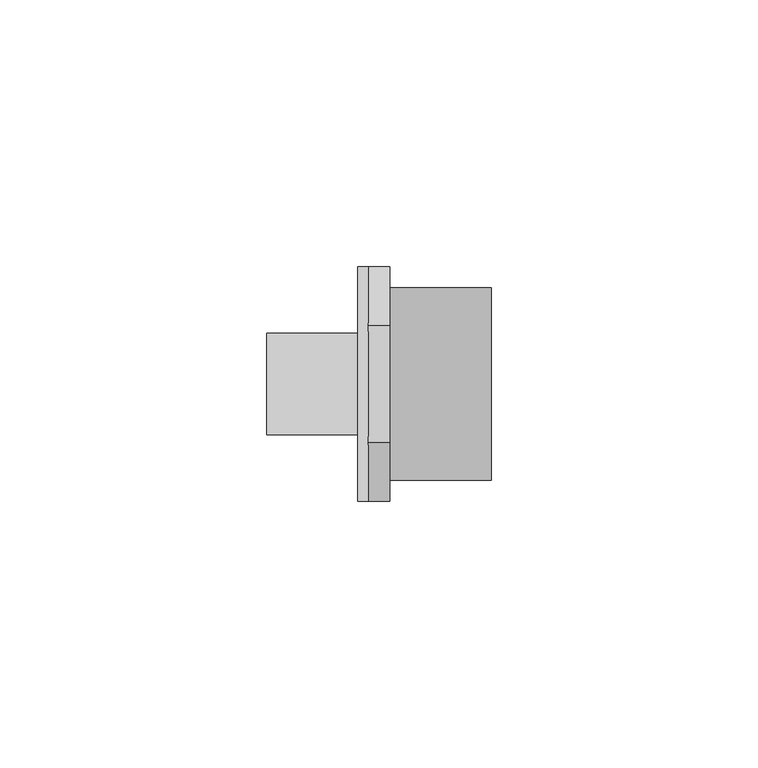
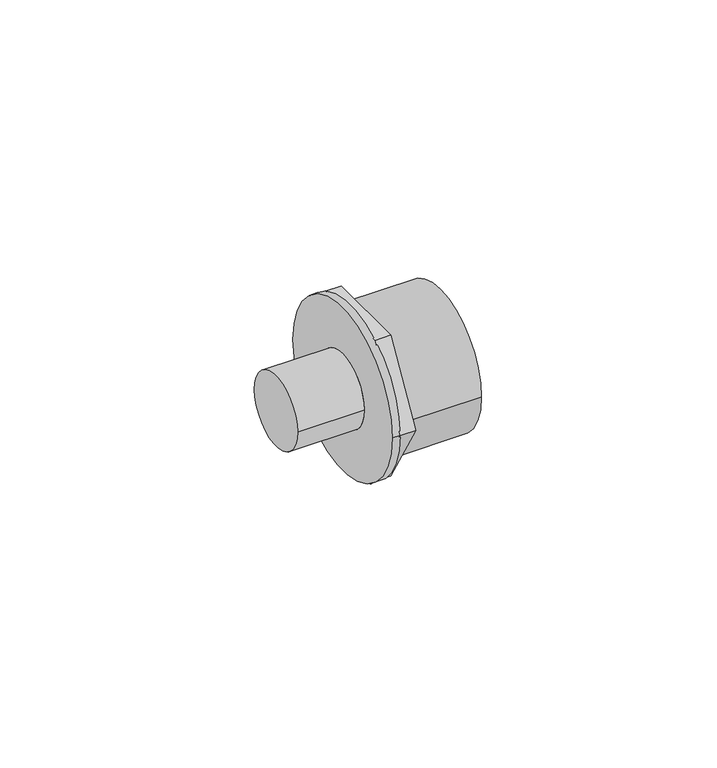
"""IFC4 building model written with IfcOpenShell, lengths in millimetres: pipe fitting geometry, 01011169 : Uniao M/F."""

import ifcopenshell
import ifcopenshell.guid

model = None  # the IFC model being written
_history = None  # IfcOwnerHistory: only IFC2X3 demands one
_inside = {}  # id of a spatial element -> (the spatial element, [elements in it])
_under = {}  # id of a project, library or spatial element -> (it, [spatial elements below it])
_declared = {}  # id of a project -> (the project, [libraries it declares])
_typed = {}  # id of a type object -> (the type object, [elements of that type])
_made_of = {}  # id of a material, layer set ... -> (it, [elements and type objects made of it])


def new_model(schema):
    """Start an empty IFC model of exactly this schema.

    Asked for "IFC4X3", IfcOpenShell would pick the latest addendum, in which some entities
    have other attributes; the version numbers below select the first issue.
    IFC2X3 requires an IfcOwnerHistory on every rooted entity: one is made here for all.
    """
    global model, _history
    if schema == "IFC4X3":
        model = ifcopenshell.file(schema_version=(4, 3, 0, 0))
    else:
        model = ifcopenshell.file(schema=schema)
    _inside.clear()
    _under.clear()
    _declared.clear()
    _typed.clear()
    _made_of.clear()
    _history = None
    if model.schema == "IFC2X3":
        org = make("IfcOrganization", Name="unknown")
        user = make(
            "IfcPersonAndOrganization",
            ThePerson=make("IfcPerson", FamilyName="unknown"),
            TheOrganization=org,
        )
        app = make(
            "IfcApplication",
            ApplicationDeveloper=org,
            Version="unknown",
            ApplicationFullName="unknown",
            ApplicationIdentifier="unknown",
        )
        _history = make(
            "IfcOwnerHistory",
            OwningUser=user,
            OwningApplication=app,
            ChangeAction="ADDED",
            CreationDate=0,
        )
    return model


def make(cls, **values):
    """One entity of the class cls with the attributes given. An attribute that is None is left unset."""
    return model.create_entity(
        cls, **{name: value for name, value in values.items() if value is not None}
    )


def rooted(cls, **values):
    """An entity with a GlobalId (a new one), such as an element, a storey or a relation."""
    return make(cls, GlobalId=ifcopenshell.guid.new(), OwnerHistory=_history, **values)


def si_unit(unit_type, name, prefix=None):
    """IfcSIUnit, for example si_unit("LENGTHUNIT", "METRE", prefix="MILLI")."""
    return make("IfcSIUnit", UnitType=unit_type, Prefix=prefix, Name=name)


def assignment(units):
    """IfcUnitAssignment: the units of a project."""
    return None if units is None else make("IfcUnitAssignment", Units=units)


def point(xyz):
    """IfcCartesianPoint."""
    return None if xyz is None else make("IfcCartesianPoint", Coordinates=xyz)


def direction(xyz):
    """IfcDirection."""
    return None if xyz is None else make("IfcDirection", DirectionRatios=xyz)


def frame(location, z_axis=None, x_axis=None):
    """IfcAxis2Placement3D, a coordinate frame: its origin and axes. An axis left out is left unset."""
    return make(
        "IfcAxis2Placement3D",
        Location=point(location),
        Axis=direction(z_axis),
        RefDirection=direction(x_axis),
    )


def origin():
    """The frame at (0, 0, 0) with its axes left unset."""
    return frame((0.0, 0.0, 0.0))


def place(relative_to, where):
    """IfcLocalPlacement: puts the frame where relative to a parent placement (None: the world)."""
    return make(
        "IfcLocalPlacement", PlacementRelTo=relative_to, RelativePlacement=where
    )


def context(
    kind, dimensions, precision=None, world=None, true_north=None, identifier=None
):
    """IfcGeometricRepresentationContext, for example the 3D "Model" context."""
    return make(
        "IfcGeometricRepresentationContext",
        ContextIdentifier=identifier,
        ContextType=kind,
        CoordinateSpaceDimension=dimensions,
        Precision=precision,
        WorldCoordinateSystem=world,
        TrueNorth=true_north,
    )


def project(units=None, contexts=None):
    """IfcProject with its units and contexts."""
    return rooted(
        "IfcProject",
        Name="project",
        RepresentationContexts=contexts,
        UnitsInContext=assignment(units),
    )


def spatial(cls, under=None, at=None, **own):
    """A site, building, storey or space (cls), placed at a placement, below another one or the project."""
    s = rooted(cls, ObjectPlacement=at, **own)
    if under is not None:
        _under.setdefault(under.id(), (under, []))[1].append(s)
    return s


def circle_curve(where, radius):
    """IfcCircle in the frame where."""
    return make("IfcCircle", Position=where, Radius=radius)


def shape(context_of_items, identifier, shape_type, items):
    """IfcShapeRepresentation: the items that make up one representation, for example the "Body"."""
    return make(
        "IfcShapeRepresentation",
        ContextOfItems=context_of_items,
        RepresentationIdentifier=identifier,
        RepresentationType=shape_type,
        Items=items,
    )


def source(mapping_origin, context_of_items, identifier, shape_type, items):
    """IfcRepresentationMap: a shape defined once, which mapped items show again and again."""
    return make(
        "IfcRepresentationMap",
        MappingOrigin=mapping_origin,
        MappedRepresentation=shape(context_of_items, identifier, shape_type, items),
    )


def transform(
    local_origin,
    x_axis=None,
    y_axis=None,
    z_axis=None,
    scale=None,
    scale2=None,
    scale3=None,
    uniform=True,
):
    """IfcCartesianTransformationOperator3D, or its non-uniform kind. x_axis, y_axis, z_axis: its Axis1, 2, 3."""
    if uniform:
        return make(
            "IfcCartesianTransformationOperator3D",
            Axis1=direction(x_axis),
            Axis2=direction(y_axis),
            LocalOrigin=point(local_origin),
            Scale=scale,
            Axis3=direction(z_axis),
        )
    return make(
        "IfcCartesianTransformationOperator3DnonUniform",
        Axis1=direction(x_axis),
        Axis2=direction(y_axis),
        LocalOrigin=point(local_origin),
        Scale=scale,
        Axis3=direction(z_axis),
        Scale2=scale2,
        Scale3=scale3,
    )


def mapped(mapping_source, mapping_target):
    """IfcMappedItem: shows the shape of a source again, moved by a transform."""
    return make(
        "IfcMappedItem", MappingSource=mapping_source, MappingTarget=mapping_target
    )


def made_of(thing, what):
    """Note that an element or type object is made of a material, layer set ...; save() writes the relation."""
    if what is not None:
        _made_of.setdefault(what.id(), (what, []))[1].append(thing)
    return thing


def element(
    cls,
    number,
    at=None,
    inside=None,
    cuts=None,
    type_object=None,
    material=None,
    context=None,
    identifier="Body",
    shape_type=None,
    held_by="IfcProductDefinitionShape",
    body=None,
    shapes=None,
    **own,
):
    """One element of the class cls, such as IfcWall. Its Tag is "e" and its number.

    at: its placement. inside: the storey or other place that contains it. cuts: it is an
    opening in that element (IfcRelVoidsElement). A single representation is given by context,
    identifier, shape_type and body (its items); several are given by shapes. held_by: the class
    of the entity that holds the representations. save() writes the other relations.
    """
    e = rooted(cls, Tag="e%d" % number, ObjectPlacement=at, **own)
    if body is not None:
        shapes = [shape(context, identifier, shape_type, body)]
    if shapes is not None:
        e.Representation = make(held_by, Representations=shapes)
    if inside is not None:
        _inside.setdefault(inside.id(), (inside, []))[1].append(e)
    if cuts is not None:
        rooted(
            "IfcRelVoidsElement", RelatingBuildingElement=cuts, RelatedOpeningElement=e
        )
    if type_object is not None:
        _typed.setdefault(type_object.id(), (type_object, []))[1].append(e)
    return made_of(e, material)


def aggregate(whole, parts):
    """IfcRelAggregates: a whole, such as a stair, and the parts it consists of."""
    return rooted("IfcRelAggregates", RelatingObject=whole, RelatedObjects=parts)


def save(model, path):
    """Write the relations noted so far, then the file.

    IfcRelAggregates (storeys below a building ...), IfcRelContainedInSpatialStructure (elements
    in a storey), IfcRelDefinesByType, IfcRelAssociatesMaterial and IfcRelDeclares: one each for
    every whole, place, type object, material and project.
    """
    for whole, parts in _under.values():
        aggregate(whole, parts)
    for where, things in _inside.values():
        rooted(
            "IfcRelContainedInSpatialStructure",
            RelatedElements=things,
            RelatingStructure=where,
        )
    for kind, things in _typed.values():
        rooted("IfcRelDefinesByType", RelatedObjects=things, RelatingType=kind)
    for what, things in _made_of.values():
        rooted("IfcRelAssociatesMaterial", RelatedObjects=things, RelatingMaterial=what)
    for by, libraries in _declared.values():
        rooted("IfcRelDeclares", RelatingContext=by, RelatedDefinitions=libraries)
    model.write(path)


def plane_surface(at):
    """IfcPlane: the flat surface through the origin of the frame at, square to its z axis."""
    return make("IfcPlane", Position=at)


def cylinder_surface(at, radius):
    """IfcCylindricalSurface: all points at the distance radius from the z axis of the frame at."""
    return make("IfcCylindricalSurface", Position=at, Radius=radius)


def advanced_brep(points, edges, surfaces, faces):
    """IfcAdvancedBrep: a solid bounded by faces that lie on surfaces and meet in shared edges.

    An edge is (start, end): straight between two places in points (the first is 0);
    or (start, end, curve); or (start, end, curve, False) where it runs against its curve.
    A face is (place in surfaces, loops), or (place, loops, False) where it looks against
    its surface's normal. A loop lists edges by number (the first is 1), with a minus sign
    where the edge is run from its end to its start. The first loop is the outer one.
    """
    corners = [point(p) for p in points]
    vertices = [make("IfcVertexPoint", VertexGeometry=c) for c in corners]
    made = []
    for start, end, *more in edges:
        made.append(
            make(
                "IfcEdgeCurve",
                EdgeStart=vertices[start],
                EdgeEnd=vertices[end],
                EdgeGeometry=more[0] if more else make("IfcPolyline", Points=[corners[start], corners[end]]),
                SameSense=more[1] if len(more) > 1 else True,
            )
        )
    hull = []
    for where, loops, *sense in faces:
        bounds = []
        for j, loop in enumerate(loops):
            ring = [make("IfcOrientedEdge", EdgeElement=made[abs(k) - 1], Orientation=k > 0) for k in loop]
            bounds.append(
                make(
                    "IfcFaceOuterBound" if j == 0 else "IfcFaceBound",
                    Bound=make("IfcEdgeLoop", EdgeList=ring),
                    Orientation=True,
                )
            )
        hull.append(make("IfcAdvancedFace", Bounds=bounds, FaceSurface=surfaces[where], SameSense=sense[0] if sense else True))
    return make("IfcAdvancedBrep", Outer=make("IfcClosedShell", CfsFaces=hull))


def pipe_fitting_543c1699(model_context):
    return source(origin(), model_context, "Body", "AdvancedBrep", [
        advanced_brep(
        [(2.0, -10.9696551, 19.0), (2.0, -21.9393102, 0.0), (2.0, -10.9696551, -19.0), (2.0, 10.9696551, -19.0), (2.0, 21.9393102, 0.0), (2.0, 10.9696551, 19.0), (2.0, -18.05, 0.0), (2.0, 18.05, 0.0), (-2.0, -10.9696551, 19.0), (-2.0, -21.9393102, 0.0), (-2.0, -10.9696551, -19.0), (-2.0, 10.9696551, -19.0), (-2.0, 21.9393102, 0.0), (-2.0, 10.9696551, 19.0), (21.0, -18.05, 0.0), (21.0, 18.05, 0.0), (-21.0, 9.525, 0.0), (-21.0, -9.525, 0.0), (-4.0, -9.525, 0.0), (-4.0, 9.525, 0.0), (-4.0, -21.9393102, 0.0), (-4.0, 21.9393102, 0.0)],
        [
            (0, 1),
            (1, 2),
            (2, 3),
            (3, 4),
            (4, 5),
            (5, 0),
            (6, 7, circle_curve(frame((2.0, 0.0, 0.0), z_axis=(-1.0, 0.0, 0.0), x_axis=(0.0, 1.0, 0.0)), 18.05)),
            (7, 6, circle_curve(frame((2.0, 0.0, 0.0), z_axis=(-1.0, 0.0, 0.0), x_axis=(0.0, 1.0, 0.0)), 18.05)),
            (0, 8),
            (8, 9),
            (9, 1),
            (9, 10),
            (10, 2),
            (10, 11),
            (11, 3),
            (11, 12),
            (12, 4),
            (12, 13),
            (13, 5),
            (13, 8),
            (14, 15, circle_curve(frame((21.0, 0.0, 0.0), z_axis=(1.0, 0.0, 0.0), x_axis=(0.0, 1.0, 0.0)), 18.05)),
            (15, 14, circle_curve(frame((21.0, 0.0, 0.0), z_axis=(1.0, 0.0, 0.0), x_axis=(0.0, 1.0, 0.0)), 18.05)),
            (15, 7),
            (6, 14),
            (16, 17, circle_curve(frame((-21.0, 0.0, 0.0), z_axis=(-1.0, 0.0, 0.0), x_axis=(0.0, -1.0, 0.0)), 9.525)),
            (17, 16, circle_curve(frame((-21.0, 0.0, 0.0), z_axis=(-1.0, 0.0, 0.0), x_axis=(0.0, -1.0, 0.0)), 9.525)),
            (17, 18),
            (18, 19, circle_curve(frame((-4.0, 0.0, 0.0), z_axis=(-1.0, 0.0, 0.0), x_axis=(0.0, -1.0, 0.0)), 9.525)),
            (19, 16),
            (19, 18, circle_curve(frame((-4.0, 0.0, 0.0), z_axis=(-1.0, 0.0, 0.0), x_axis=(0.0, -1.0, 0.0)), 9.525)),
            (8, 9, circle_curve(frame((-2.0, 0.0, 0.0), z_axis=(1.0, 0.0, 0.0), x_axis=(0.0, 1.0, 0.0)), 21.9393102)),
            (12, 13, circle_curve(frame((-2.0, 0.0, 0.0), z_axis=(1.0, 0.0, 0.0), x_axis=(0.0, 1.0, 0.0)), 21.9393102)),
            (13, 8, circle_curve(frame((-2.0, 0.0, 0.0), z_axis=(1.0, 0.0, 0.0), x_axis=(0.0, 1.0, 0.0)), 21.9393102)),
            (11, 12, circle_curve(frame((-2.0, 0.0, 0.0), z_axis=(1.0, 0.0, 0.0), x_axis=(0.0, 1.0, 0.0)), 21.9393102)),
            (9, 10, circle_curve(frame((-2.0, 0.0, 0.0), z_axis=(1.0, 0.0, 0.0), x_axis=(0.0, 1.0, 0.0)), 21.9393102)),
            (10, 11, circle_curve(frame((-2.0, 0.0, 0.0), z_axis=(1.0, 0.0, 0.0), x_axis=(0.0, 1.0, 0.0)), 21.9393102)),
            (20, 21, circle_curve(frame((-4.0, 0.0, 0.0), z_axis=(-1.0, 0.0, 0.0), x_axis=(0.0, 1.0, 0.0)), 21.9393102)),
            (21, 20, circle_curve(frame((-4.0, 0.0, 0.0), z_axis=(-1.0, 0.0, 0.0), x_axis=(0.0, 1.0, 0.0)), 21.9393102)),
            (21, 12),
            (9, 20),
        ],
        [
            plane_surface(frame((2.0, -10.9696551, 19.0), z_axis=(1.0, 0.0, 0.0), x_axis=(0.0, -0.5000000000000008, -0.8660254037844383))),
            plane_surface(frame((2.0, -10.9696551, 19.0), z_axis=(0.0, -0.8660254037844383, 0.5000000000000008), x_axis=(-1.0, 0.0, 0.0))),
            plane_surface(frame((2.0, -21.9393102, 0.0), z_axis=(0.0, -0.866025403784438, -0.500000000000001), x_axis=(-1.0, 0.0, 0.0))),
            plane_surface(frame((2.0, -10.9696551, -19.0), z_axis=(0.0, 0.0, -1.0), x_axis=(-1.0, 0.0, 0.0))),
            plane_surface(frame((2.0, 10.9696551, -19.0), z_axis=(0.0, 0.8660254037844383, -0.5000000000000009), x_axis=(-1.0, 0.0, 0.0))),
            plane_surface(frame((2.0, 21.9393102, 0.0), z_axis=(0.0, 0.8660254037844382, 0.5000000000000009), x_axis=(-1.0, 0.0, 0.0))),
            plane_surface(frame((2.0, 10.9696551, 19.0), z_axis=(0.0, 0.0, 1.0), x_axis=(-1.0, 0.0, 0.0))),
            plane_surface(frame((21.0, 0.0, 0.0), z_axis=(1.0, 0.0, 0.0), x_axis=(0.0, 0.0, 1.0))),
            cylinder_surface(frame((0.0, 0.0, 0.0), z_axis=(-1.0, 0.0, 0.0), x_axis=(0.0, 1.0, 0.0)), 18.05),
            plane_surface(frame((-21.0, 0.0, 0.0), z_axis=(-1.0, 0.0, 0.0), x_axis=(0.0, 0.0, 1.0))),
            cylinder_surface(frame((0.0, 0.0, 0.0), z_axis=(1.0, 0.0, 0.0), x_axis=(0.0, -1.0, 0.0)), 9.525),
            plane_surface(frame((-2.0, 21.9393102, 0.0), z_axis=(1.0, 0.0, 0.0), x_axis=(0.0, 0.0, 1.0))),
            plane_surface(frame((-4.0, 21.9393102, 0.0), z_axis=(-1.0, 0.0, 0.0), x_axis=(0.0, 0.0, -1.0))),
            cylinder_surface(frame((-4.0, 0.0, 0.0), z_axis=(1.0, 0.0, 0.0), x_axis=(0.0, 1.0, 0.0)), 21.9393102),
        ],
        [
            (0, [[1, 2, 3, 4, 5, 6], [7, 8]]),
            (1, [[-1, 9, 10, 11]]),
            (2, [[-2, -11, 12, 13]]),
            (3, [[-3, -13, 14, 15]]),
            (4, [[-4, -15, 16, 17]]),
            (5, [[-5, -17, 18, 19]]),
            (6, [[-6, -19, 20, -9]]),
            (7, [[21, 22]]),
            (8, [[-22, 23, -7, 24]]),
            (8, [[-21, -24, -8, -23]]),
            (9, [[25, 26]]),
            (10, [[-26, 27, 28, 29]]),
            (10, [[-25, -29, 30, -27]]),
            (11, [[31, -10]]),
            (11, [[32, -18]]),
            (11, [[33, -20]]),
            (11, [[34, -16]]),
            (11, [[35, -12]]),
            (11, [[36, -14]]),
            (12, [[37, 38], [-28, -30]]),
            (13, [[-38, 39, -34, -36, -35, 40]]),
            (13, [[-37, -40, -31, -33, -32, -39]]),
        ],
    ),
    ])


if __name__ == "__main__":
    model = new_model("IFC4")
    model_context = context("Model", 3, world=origin())
    ifc_project = project(units=[si_unit("LENGTHUNIT", "METRE", prefix="MILLI")], contexts=[model_context])
    site = spatial("IfcSite", under=ifc_project)
    building = spatial("IfcBuilding", under=site)
    placement = place(None, origin())
    pipe_fitting_shape = pipe_fitting_543c1699(model_context)
    element("IfcPipeFitting", 1, ObjectType="01011169 : Uniao M/F", at=placement, inside=building, context=model_context, shape_type="MappedRepresentation", body=[
        mapped(pipe_fitting_shape, transform((0.0, 0.0, 0.0), x_axis=(1.0, 0.0, 0.0), y_axis=(0.0, 1.0, 0.0), z_axis=(0.0, 0.0, 1.0))),
    ])
    save(model, "model.ifc")
